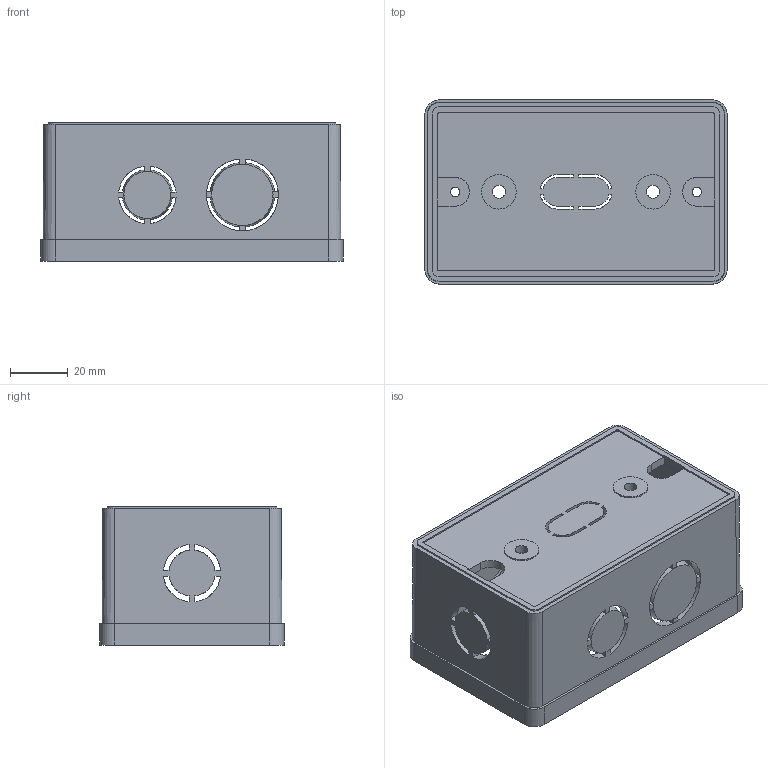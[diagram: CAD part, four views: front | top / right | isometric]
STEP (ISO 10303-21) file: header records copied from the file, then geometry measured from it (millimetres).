
FILE_DESCRIPTION(/* description */ (''),/* implementation_level */ '2;1');
FILE_NAME(/* name */ 'D:\01 XLT\01 Drawing\05 Sino\SINO De dam.stp',/* time_stamp */ '2025-09-27T13:36:29+07:00',/* author */ ('Bravo'),/* organization */ (''),/* preprocessor_version */ 'ST-DEVELOPER v19',/* originating_system */ 'Autodesk Inventor 2023',/* authorisation */ '');
FILE_SCHEMA (('AUTOMOTIVE_DESIGN { 1 0 10303 214 3 1 1 }'));
Length unit declared in the file: millimetre
Products named in the file (1): SINO De dam
Bounding box: 105 x 64 x 48 mm (x, y, z)
Volume: 65719.9 mm3; surface area: 45252 mm2
Topology: 1 solids, 1 shells, 224 faces, 646 edges, 422 vertices
Faces by surface type: plane 126, cylinder 74, cone 22, torus 2
Full cylindrical faces by diameter (mm): 3.242 x2, 4 x2, 4.5 x2, 10 x2, 12 x4
Entity records: 7497 total; most frequent: CARTESIAN_POINT 1393, ORIENTED_EDGE 1292, DIRECTION 1264, EDGE_CURVE 646, AXIS2_PLACEMENT_3D 441, VERTEX_POINT 422, LINE 382, VECTOR 382
